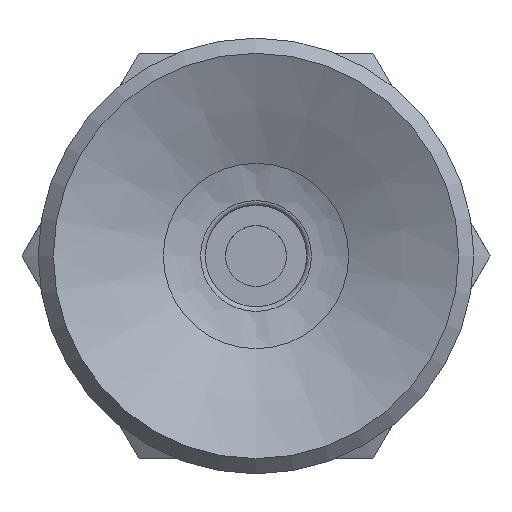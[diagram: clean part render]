
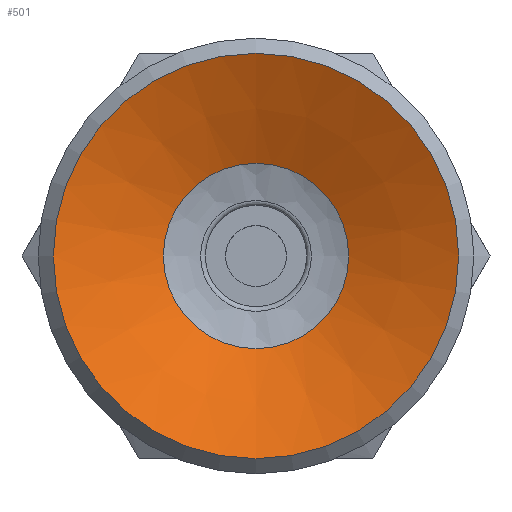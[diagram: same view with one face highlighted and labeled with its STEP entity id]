
A CAD part, front view. The second image highlights one B-rep face of the part: STEP entity #501.
In plain terms, the highlighted conical face has half-angle 65 degrees and reference radius 1.427 mm.
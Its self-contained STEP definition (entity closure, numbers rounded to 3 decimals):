
#501=ADVANCED_FACE('',(#762,#763),#764,.F.);
#762=FACE_BOUND('',#1032,.T.);
#763=FACE_OUTER_BOUND('',#1033,.T.);
#764=CONICAL_SURFACE('',#1034,1.427,1.134);
#1032=EDGE_LOOP('',(#1763));
#1033=EDGE_LOOP('',(#1764));
#1034=AXIS2_PLACEMENT_3D('',#1765,#1766,#1767);
#1763=ORIENTED_EDGE('',*,*,#1973,.T.);
#1764=ORIENTED_EDGE('',*,*,#1960,.T.);
#1765=CARTESIAN_POINT('',(0.0,7.096,0.));
#1766=DIRECTION('',(-0.0,-1.0,0.));
#1767=DIRECTION('',(0.0,0.,-1.0));
#1960=EDGE_CURVE('',#2267,#2267,#2268,.T.);
#1973=EDGE_CURVE('',#2293,#2293,#2294,.T.);
#2267=VERTEX_POINT('',#2963);
#2268=CIRCLE('',#2964,4.0);
#2293=VERTEX_POINT('',#2989);
#2294=CIRCLE('',#2990,1.828);
#2963=CARTESIAN_POINT('',(0.0,5.896,-4.0));
#2964=AXIS2_PLACEMENT_3D('',#3244,#3245,#3246);
#2989=CARTESIAN_POINT('',(0.0,6.909,-1.828));
#2990=AXIS2_PLACEMENT_3D('',#3283,#3284,#3285);
#3244=CARTESIAN_POINT('',(0.0,5.896,0.0));
#3245=DIRECTION('',(0.0,-1.0,0.));
#3246=DIRECTION('',(0.0,0.,-1.0));
#3283=CARTESIAN_POINT('',(0.0,6.909,0.0));
#3284=DIRECTION('',(0.0,1.0,0.));
#3285=DIRECTION('',(0.0,0.,-1.0));
